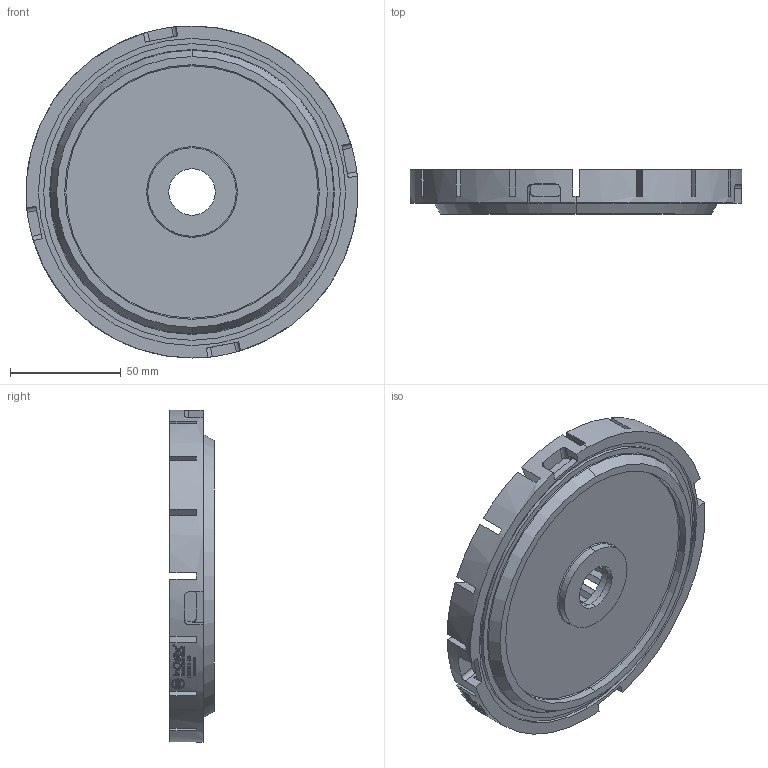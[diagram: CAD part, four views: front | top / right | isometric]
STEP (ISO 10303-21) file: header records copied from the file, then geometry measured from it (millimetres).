
FILE_DESCRIPTION (( 'STEP AP203' ), '1' );
FILE_NAME ('CR150 S-15.STEP', '2016-06-15T10:11:19', ( '' ), ( '' ), 'SwSTEP 2.0', 'SolidWorks 2016', '' );
FILE_SCHEMA (( 'CONFIG_CONTROL_DESIGN' ));
Length unit declared in the file: millimetre
Products named in the file (1): CR150 S-15
Bounding box: 150 x 20 x 150 mm (x, y, z)
Volume: 239558.6 mm3; surface area: 70820.7 mm2
Topology: 1 solids, 1 shells, 1987 faces, 5662 edges, 3773 vertices
Faces by surface type: plane 1596, cylinder 381, torus 8, cone 2
Entity records: 65360 total; most frequent: CARTESIAN_POINT 16985, ORIENTED_EDGE 11324, DIRECTION 8699, EDGE_CURVE 5662, VERTEX_POINT 3773, VECTOR 3563, LINE 3563, AXIS2_PLACEMENT_3D 2568
